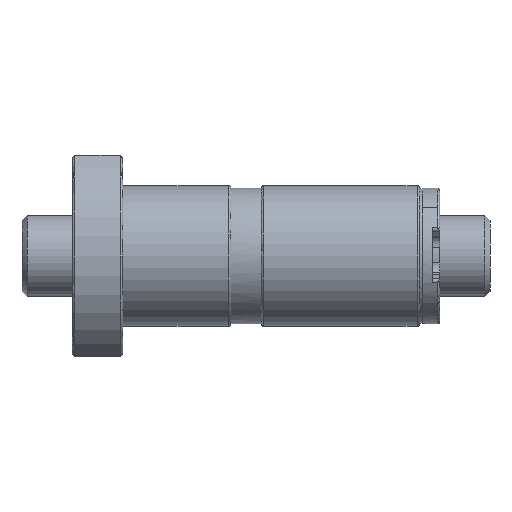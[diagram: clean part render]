
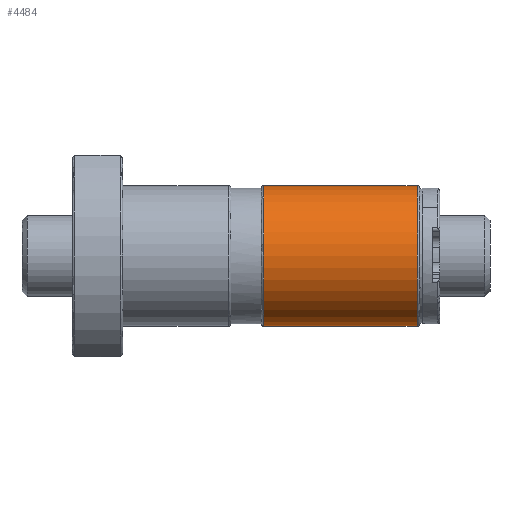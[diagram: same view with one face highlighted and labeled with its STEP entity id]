
A CAD part, front view. The second image highlights one B-rep face of the part: STEP entity #4484.
In plain terms, the highlighted cylindrical face has radius 14 mm (diameter 28 mm), a partial arc.
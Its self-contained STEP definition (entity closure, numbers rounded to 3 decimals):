
#162 = CARTESIAN_POINT ( 'NONE',  ( 76.679, -0.743, -9.752 ) ) ;
#470 = ORIENTED_EDGE ( 'NONE', *, *, #8231, .T. ) ;
#567 = AXIS2_PLACEMENT_3D ( 'NONE', #1055, #5061, #7006 ) ;
#792 = CARTESIAN_POINT ( 'NONE',  ( 77.179, -0.743, -9.752 ) ) ;
#1055 = CARTESIAN_POINT ( 'NONE',  ( 76.679, -0.743, 4.248 ) ) ;
#1360 = DIRECTION ( 'NONE',  ( -1., 0., 0. ) ) ;
#1898 = LINE ( 'NONE', #792, #2540 ) ;
#2093 = VERTEX_POINT ( 'NONE', #2224 ) ;
#2108 = VERTEX_POINT ( 'NONE', #2781 ) ;
#2224 = CARTESIAN_POINT ( 'NONE',  ( 46.179, -0.743, 18.248 ) ) ;
#2540 = VECTOR ( 'NONE', #5862, 1000. ) ;
#2611 = LINE ( 'NONE', #3493, #5443 ) ;
#2760 = CARTESIAN_POINT ( 'NONE',  ( 46.179, -0.743, 4.248 ) ) ;
#2781 = CARTESIAN_POINT ( 'NONE',  ( 76.679, -0.743, 18.248 ) ) ;
#3118 = AXIS2_PLACEMENT_3D ( 'NONE', #8093, #1360, #5584 ) ;
#3321 = VERTEX_POINT ( 'NONE', #162 ) ;
#3493 = CARTESIAN_POINT ( 'NONE',  ( 77.179, -0.743, 18.248 ) ) ;
#4484 = ADVANCED_FACE ( 'NONE', ( #6608 ), #5043, .T. ) ;
#4600 = ORIENTED_EDGE ( 'NONE', *, *, #10233, .F. ) ;
#4703 = EDGE_CURVE ( 'NONE', #3321, #2108, #7658, .T. ) ;
#5043 = CYLINDRICAL_SURFACE ( 'NONE', #3118, 14. ) ;
#5061 = DIRECTION ( 'NONE',  ( -1., 0., 0. ) ) ;
#5443 = VECTOR ( 'NONE', #6005, 1000. ) ;
#5497 = EDGE_CURVE ( 'NONE', #2108, #2093, #2611, .T. ) ;
#5506 = AXIS2_PLACEMENT_3D ( 'NONE', #2760, #10492, #8704 ) ;
#5584 = DIRECTION ( 'NONE',  ( 0., 0., 1. ) ) ;
#5862 = DIRECTION ( 'NONE',  ( -1., 0., 0. ) ) ;
#6005 = DIRECTION ( 'NONE',  ( -1., 0., 0. ) ) ;
#6431 = CIRCLE ( 'NONE', #5506, 14. ) ;
#6608 = FACE_OUTER_BOUND ( 'NONE', #10581, .T. ) ;
#7006 = DIRECTION ( 'NONE',  ( 0., 0., 1. ) ) ;
#7286 = VERTEX_POINT ( 'NONE', #10222 ) ;
#7644 = ORIENTED_EDGE ( 'NONE', *, *, #4703, .T. ) ;
#7658 = CIRCLE ( 'NONE', #567, 14. ) ;
#8093 = CARTESIAN_POINT ( 'NONE',  ( 77.179, -0.743, 4.248 ) ) ;
#8231 = EDGE_CURVE ( 'NONE', #2093, #7286, #6431, .T. ) ;
#8704 = DIRECTION ( 'NONE',  ( 0., 0., 1. ) ) ;
#9131 = ORIENTED_EDGE ( 'NONE', *, *, #5497, .T. ) ;
#10222 = CARTESIAN_POINT ( 'NONE',  ( 46.179, -0.743, -9.752 ) ) ;
#10233 = EDGE_CURVE ( 'NONE', #3321, #7286, #1898, .T. ) ;
#10492 = DIRECTION ( 'NONE',  ( 1., 0., 0. ) ) ;
#10581 = EDGE_LOOP ( 'NONE', ( #4600, #7644, #9131, #470 ) ) ;
